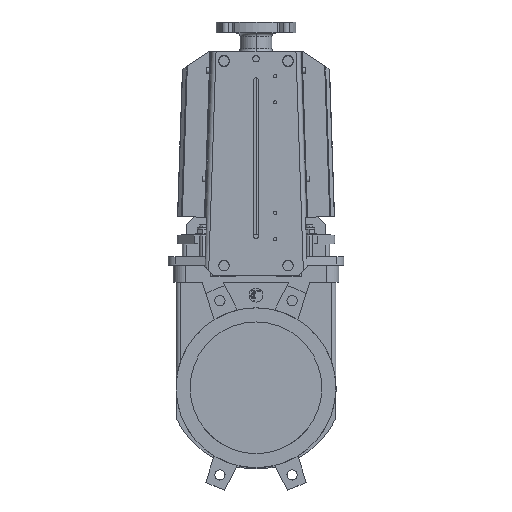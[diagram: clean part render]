
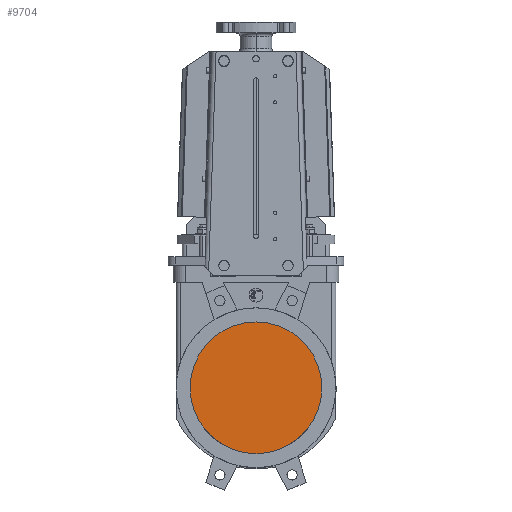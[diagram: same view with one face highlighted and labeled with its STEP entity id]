
A CAD part, top view. The second image highlights one B-rep face of the part: STEP entity #9704.
In plain terms, the highlighted planar face has unit normal (0, 0, 1).
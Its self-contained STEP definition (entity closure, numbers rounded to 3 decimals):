
#8525 = VERTEX_POINT ( 'NONE', #13935 ) ;
#8527 = EDGE_CURVE ( 'NONE', #8528, #8525, #13934, .T. ) ;
#8528 = VERTEX_POINT ( 'NONE', #13929 ) ;
#9704 = ADVANCED_FACE ( 'NONE', ( #15345 ), #15347, .T. ) ;
#9705 = EDGE_LOOP ( 'NONE', ( #9706, #9708, #9760, #9762 ) ) ;
#9706 = ORIENTED_EDGE ( 'NONE', *, *, #9707, .T. ) ;
#9707 = EDGE_CURVE ( 'NONE', #9774, #8528, #15336, .T. ) ;
#9708 = ORIENTED_EDGE ( 'NONE', *, *, #8527, .T. ) ;
#9760 = ORIENTED_EDGE ( 'NONE', *, *, #9761, .F. ) ;
#9761 = EDGE_CURVE ( 'NONE', #9777, #8525, #15396, .T. ) ;
#9762 = ORIENTED_EDGE ( 'NONE', *, *, #9776, .T. ) ;
#9774 = VERTEX_POINT ( 'NONE', #15442 ) ;
#9776 = EDGE_CURVE ( 'NONE', #9777, #9774, #15436, .T. ) ;
#9777 = VERTEX_POINT ( 'NONE', #15437 ) ;
#13929 = CARTESIAN_POINT ( 'NONE',  ( 108.75, 41.781, 4. ) ) ;
#13930 = DIRECTION ( 'NONE',  ( 1., 0., 0. ) ) ;
#13931 = DIRECTION ( 'NONE',  ( 0., 0., 1. ) ) ;
#13932 = CARTESIAN_POINT ( 'NONE',  ( 0., 0., 4. ) ) ;
#13933 = AXIS2_PLACEMENT_3D ( 'NONE', #13932, #13931, #13930 ) ;
#13934 = CIRCLE ( 'NONE', #13933, 116.5 ) ;
#13935 = CARTESIAN_POINT ( 'NONE',  ( -108.75, 41.781, 4. ) ) ;
#15333 = DIRECTION ( 'NONE',  ( 0., 1., 0. ) ) ;
#15334 = VECTOR ( 'NONE', #15333, 1000. ) ;
#15335 = CARTESIAN_POINT ( 'NONE',  ( 108.75, -159.702, 4. ) ) ;
#15336 = LINE ( 'NONE', #15335, #15334 ) ;
#15337 = DIRECTION ( 'NONE',  ( 1., 0., 0. ) ) ;
#15338 = DIRECTION ( 'NONE',  ( 0., 0., 1. ) ) ;
#15339 = CARTESIAN_POINT ( 'NONE',  ( -108.75, -159.702, 4. ) ) ;
#15340 = AXIS2_PLACEMENT_3D ( 'NONE', #15339, #15338, #15337 ) ;
#15345 = FACE_OUTER_BOUND ( 'NONE', #9705, .T. ) ;
#15347 = PLANE ( 'NONE',  #15340 ) ;
#15380 = CARTESIAN_POINT ( 'NONE',  ( 0., 7., 4. ) ) ;
#15393 = DIRECTION ( 'NONE',  ( 0., 1., 0. ) ) ;
#15394 = VECTOR ( 'NONE', #15393, 1000. ) ;
#15395 = CARTESIAN_POINT ( 'NONE',  ( -108.75, -159.702, 4. ) ) ;
#15396 = LINE ( 'NONE', #15395, #15394 ) ;
#15433 = DIRECTION ( 'NONE',  ( 1., 0., 0. ) ) ;
#15434 = DIRECTION ( 'NONE',  ( 0., 0., 1. ) ) ;
#15435 = AXIS2_PLACEMENT_3D ( 'NONE', #15380, #15434, #15433 ) ;
#15436 = CIRCLE ( 'NONE', #15435, 114. ) ;
#15437 = CARTESIAN_POINT ( 'NONE',  ( -108.75, -27.197, 4. ) ) ;
#15442 = CARTESIAN_POINT ( 'NONE',  ( 108.75, -27.197, 4. ) ) ;
